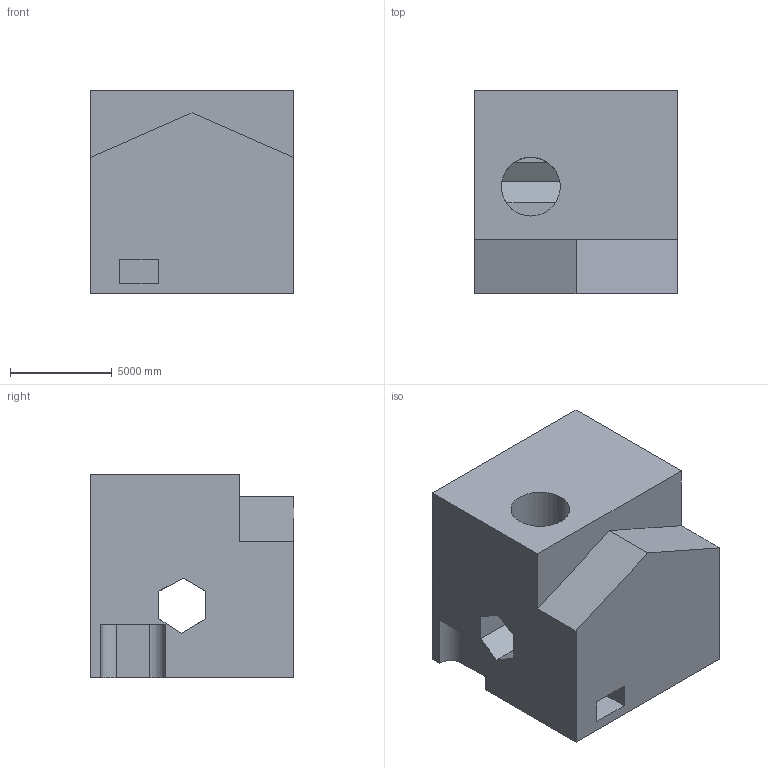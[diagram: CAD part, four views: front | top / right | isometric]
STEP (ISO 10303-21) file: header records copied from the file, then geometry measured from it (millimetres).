
FILE_DESCRIPTION (( 'STEP AP203' ), '1' );
FILE_NAME ('636.STEP', '2022-07-29T12:13:39', ( 'user' ), ( '' ), 'SwSTEP 2.0', 'SolidWorks 2021', '' );
FILE_SCHEMA (( 'CONFIG_CONTROL_DESIGN' ));
Length unit declared in the file: centimetre
Products named in the file (1): 636
Bounding box: 10000 x 10000 x 10000 mm (x, y, z)
Volume: 804079989817.1 mm3; surface area: 779290382.7 mm2
Topology: 1 solids, 1 shells, 41 faces, 117 edges, 78 vertices
Faces by surface type: plane 36, cylinder 5
Entity records: 1406 total; most frequent: CARTESIAN_POINT 267, ORIENTED_EDGE 234, DIRECTION 201, EDGE_CURVE 117, LINE 97, VECTOR 97, VERTEX_POINT 78, AXIS2_PLACEMENT_3D 52
